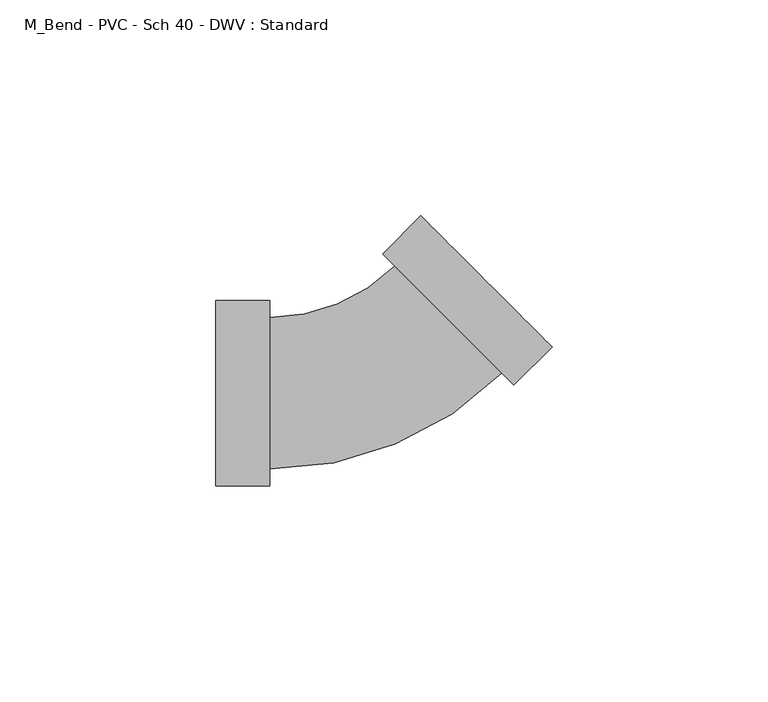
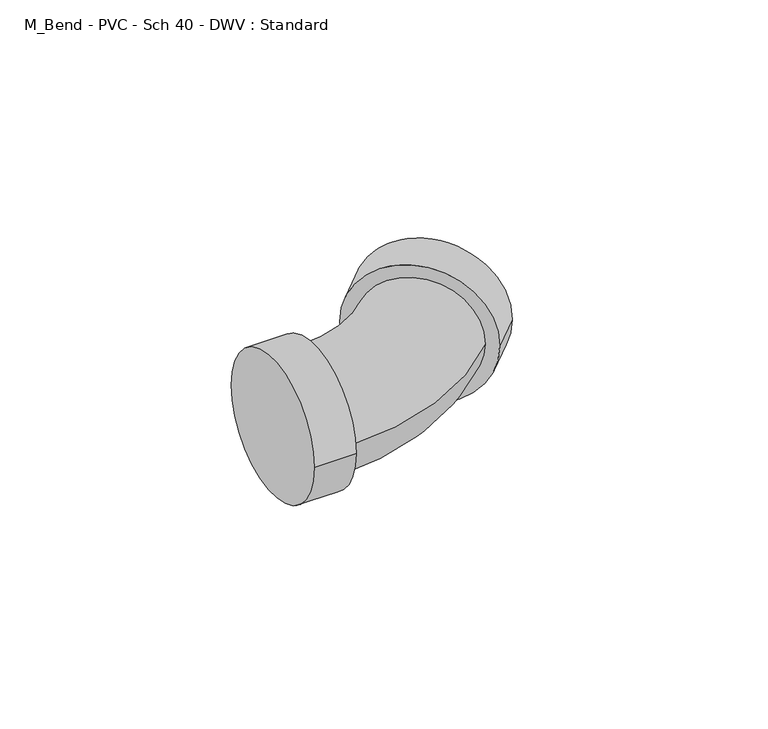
"""IFC4 building model written with IfcOpenShell, lengths in millimetres: pipe fitting geometry, M_Bend - PVC - Sch 40 - DWV : Standard."""

from ifc_helpers import new_model, si_unit, point, frame, origin, place, context, project, spatial, circle_curve, ellipse_curve, trimmed, source, transform, mapped, element, save
from ifc_brep_helpers import plane_surface, cylinder_surface, revolved_surface, advanced_brep


def m_bend_pvc_sch_40_dwv_standard_3b51b5af(model_context):
    return source(origin(), model_context, "Body", "AdvancedBrep", [
        advanced_brep(
        [(-36.6921875, -21.4871094, 0.0), (-36.6921875, 21.4871094, 0.0), (-24.1921875, -21.4871094, 0.0), (-24.1921875, 21.4871094, 0.0), (-24.1921875, -17.5640625, 0.0), (-24.1921875, 17.5640625, 0.0), (4.6867921, 29.5261275, 0.0), (29.5261275, 4.6867921, 0.0), (32.3001406, 1.9127791, 0.0), (1.9127791, 32.3001406, 0.0), (41.1389753, 10.7516139, 0.0), (10.7516139, 41.1389753, 0.0)],
        [
            (0, 1, circle_curve(frame((-36.6921875, 0.0, 0.0), z_axis=(-1.0, 0.0, 0.0), x_axis=(0.0, 1.0, 0.0)), 21.4871094)),
            (1, 0, circle_curve(frame((-36.6921875, 0.0, 0.0), z_axis=(-1.0, 0.0, 0.0), x_axis=(0.0, 1.0, 0.0)), 21.4871094)),
            (2, 3, circle_curve(frame((-24.1921875, 0.0, 0.0), z_axis=(1.0, 0.0, 0.0), x_axis=(0.0, 1.0, 0.0)), 21.4871094)),
            (3, 2, circle_curve(frame((-24.1921875, 0.0, 0.0), z_axis=(1.0, 0.0, 0.0), x_axis=(0.0, 1.0, 0.0)), 21.4871094)),
            (4, 5, circle_curve(frame((-24.1921875, 0.0, 0.0), z_axis=(-1.0, 0.0, 0.0), x_axis=(0.0, 1.0, 0.0)), 17.5640625)),
            (5, 4, circle_curve(frame((-24.1921875, 0.0, 0.0), z_axis=(-1.0, 0.0, 0.0), x_axis=(0.0, 1.0, 0.0)), 17.5640625)),
            (0, 2),
            (3, 1),
            (6, 5, circle_curve(frame((-24.1921875, 58.4051072, 0.0), z_axis=(0.0, 0.0, -1.0), x_axis=(0.0, -1.0, 0.0)), 40.8410447)),
            (4, 7, circle_curve(frame((-24.1921875, 58.4051072, 0.0), z_axis=(0.0, 0.0, 1.0), x_axis=(0.0, -1.0, 0.0)), 75.9691697)),
            (7, 6, circle_curve(frame((17.1064598, 17.1064598, 0.0), z_axis=(-0.7071067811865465, -0.7071067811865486, 0.0), x_axis=(-0.7071067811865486, 0.7071067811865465, 0.0)), 17.5640625)),
            (6, 7, circle_curve(frame((17.1064598, 17.1064598, 0.0), z_axis=(-0.7071067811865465, -0.7071067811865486, 0.0), x_axis=(-0.7071067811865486, 0.7071067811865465, 0.0)), 17.5640625)),
            (8, 9, circle_curve(frame((17.1064598, 17.1064598, 0.0), z_axis=(-0.7071067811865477, -0.7071067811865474, 0.0), x_axis=(-0.7071067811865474, 0.7071067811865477, 0.0)), 21.4871094)),
            (9, 8, circle_curve(frame((17.1064598, 17.1064598, 0.0), z_axis=(-0.7071067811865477, -0.7071067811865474, 0.0), x_axis=(-0.7071067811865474, 0.7071067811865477, 0.0)), 21.4871094)),
            (10, 11, circle_curve(frame((25.9452946, 25.9452946, 0.0), z_axis=(0.7071067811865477, 0.7071067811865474, 0.0), x_axis=(-0.7071067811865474, 0.7071067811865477, 0.0)), 21.4871094)),
            (11, 10, circle_curve(frame((25.9452946, 25.9452946, 0.0), z_axis=(0.7071067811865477, 0.7071067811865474, 0.0), x_axis=(-0.7071067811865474, 0.7071067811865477, 0.0)), 21.4871094)),
            (8, 10),
            (11, 9),
        ],
        [
            plane_surface(frame((-36.6921875, 0.0, 0.0), z_axis=(-1.0, 0.0, 0.0), x_axis=(0.0, 0.0, 1.0))),
            plane_surface(frame((-24.1921875, 0.0, 0.0), z_axis=(1.0, 0.0, 0.0), x_axis=(0.0, 0.0, 1.0))),
            cylinder_surface(frame((-36.6921875, 0.0, 0.0), z_axis=(-1.0, 0.0, 0.0), x_axis=(0.0, 1.0, 0.0)), 21.4871094),
            revolved_surface(trimmed(ellipse_curve(frame((-24.1921875, 0.0, 0.0), z_axis=(-1.0, 0.0, 0.0), x_axis=(0.0, 1.0, 0.0)), 17.5640625, 17.5640625), [point((-24.1921875, -17.5640625, 0.0))], [point((-24.1921875, 17.5640625, 0.0))], True, "CARTESIAN"), (-24.1921875, 58.4051072, 0.0), (0.0, 0.0, 1.0)),
            revolved_surface(trimmed(ellipse_curve(frame((-24.1921875, 0.0, 0.0), z_axis=(-1.0, 0.0, 0.0), x_axis=(0.0, 1.0, 0.0)), 17.5640625, 17.5640625), [point((-24.1921875, 17.5640625, 0.0))], [point((-24.1921875, -17.5640625, 0.0))], True, "CARTESIAN"), (-24.1921875, 58.4051072, 0.0), (0.0, 0.0, 1.0)),
            plane_surface(frame((17.1064598, 17.1064598, 0.0), z_axis=(-0.7071067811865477, -0.7071067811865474, 0.0), x_axis=(0.0, 0.0, 1.0))),
            plane_surface(frame((25.9452946, 25.9452946, 0.0), z_axis=(0.7071067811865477, 0.7071067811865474, 0.0), x_axis=(0.0, 0.0, 1.0))),
            cylinder_surface(frame((17.1064598, 17.1064598, 0.0), z_axis=(-0.7071067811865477, -0.7071067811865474, 0.0), x_axis=(-0.7071067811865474, 0.7071067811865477, 0.0)), 21.4871094),
        ],
        [
            (0, [[1, 2]]),
            (1, [[3, 4], [5, 6]]),
            (2, [[-1, 7, -4, 8]]),
            (2, [[-2, -8, -3, -7]]),
            (3, [[9, -5, 10, 11]]),
            (4, [[-9, 12, -10, -6]]),
            (5, [[13, 14], [-11, -12]]),
            (6, [[15, 16]]),
            (7, [[-13, 17, -16, 18]]),
            (7, [[-14, -18, -15, -17]]),
        ],
    ),
    ])


if __name__ == "__main__":
    model = new_model("IFC4")
    model_context = context("Model", 3, world=origin())
    ifc_project = project(units=[si_unit("LENGTHUNIT", "METRE", prefix="MILLI")], contexts=[model_context])
    site = spatial("IfcSite", under=ifc_project)
    building = spatial("IfcBuilding", under=site)
    placement = place(None, origin())
    m_bend_pvc_sch_40_dwv_standard_shape = m_bend_pvc_sch_40_dwv_standard_3b51b5af(model_context)
    element("IfcPipeFitting", 1, ObjectType="M_Bend - PVC - Sch 40 - DWV : Standard", at=placement, inside=building, context=model_context, shape_type="MappedRepresentation", body=[
        mapped(m_bend_pvc_sch_40_dwv_standard_shape, transform((0.0, 0.0, 0.0), x_axis=(1.0, 0.0, 0.0), y_axis=(0.0, 1.0, 0.0), z_axis=(0.0, 0.0, 1.0))),
    ])
    save(model, "model.ifc")
